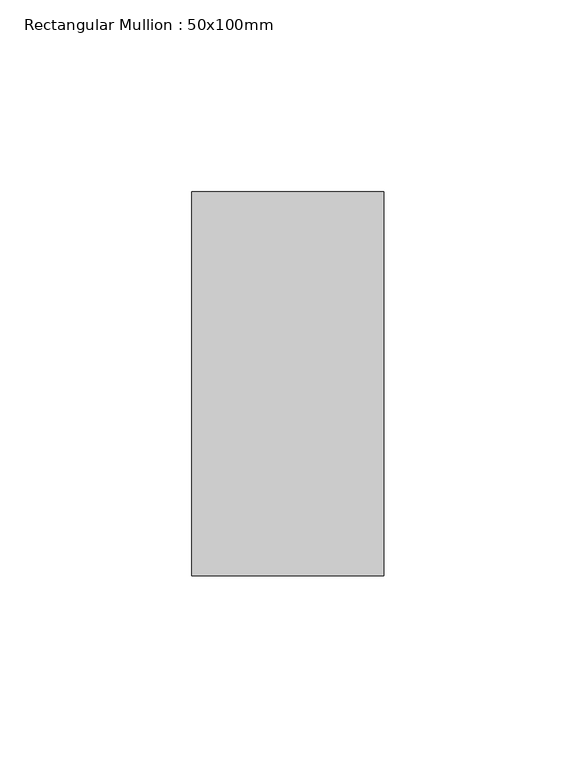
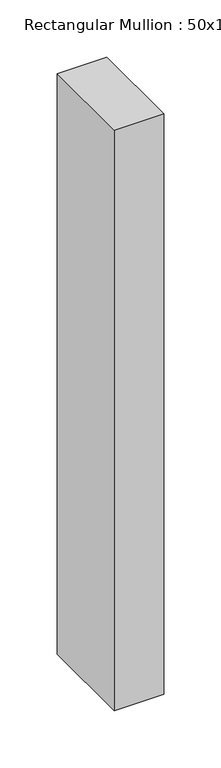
"""IFC4 building model written with IfcOpenShell, lengths in millimetres: member geometry, Rectangular Mullion : 50x100mm."""

import ifcopenshell
import ifcopenshell.guid

model = None  # the IFC model being written
_history = None  # IfcOwnerHistory: only IFC2X3 demands one
_inside = {}  # id of a spatial element -> (the spatial element, [elements in it])
_under = {}  # id of a project, library or spatial element -> (it, [spatial elements below it])
_declared = {}  # id of a project -> (the project, [libraries it declares])
_typed = {}  # id of a type object -> (the type object, [elements of that type])
_made_of = {}  # id of a material, layer set ... -> (it, [elements and type objects made of it])


def new_model(schema):
    """Start an empty IFC model of exactly this schema.

    Asked for "IFC4X3", IfcOpenShell would pick the latest addendum, in which some entities
    have other attributes; the version numbers below select the first issue.
    IFC2X3 requires an IfcOwnerHistory on every rooted entity: one is made here for all.
    """
    global model, _history
    if schema == "IFC4X3":
        model = ifcopenshell.file(schema_version=(4, 3, 0, 0))
    else:
        model = ifcopenshell.file(schema=schema)
    _inside.clear()
    _under.clear()
    _declared.clear()
    _typed.clear()
    _made_of.clear()
    _history = None
    if model.schema == "IFC2X3":
        org = make("IfcOrganization", Name="unknown")
        user = make(
            "IfcPersonAndOrganization",
            ThePerson=make("IfcPerson", FamilyName="unknown"),
            TheOrganization=org,
        )
        app = make(
            "IfcApplication",
            ApplicationDeveloper=org,
            Version="unknown",
            ApplicationFullName="unknown",
            ApplicationIdentifier="unknown",
        )
        _history = make(
            "IfcOwnerHistory",
            OwningUser=user,
            OwningApplication=app,
            ChangeAction="ADDED",
            CreationDate=0,
        )
    return model


def make(cls, **values):
    """One entity of the class cls with the attributes given. An attribute that is None is left unset."""
    return model.create_entity(
        cls, **{name: value for name, value in values.items() if value is not None}
    )


def rooted(cls, **values):
    """An entity with a GlobalId (a new one), such as an element, a storey or a relation."""
    return make(cls, GlobalId=ifcopenshell.guid.new(), OwnerHistory=_history, **values)


def si_unit(unit_type, name, prefix=None):
    """IfcSIUnit, for example si_unit("LENGTHUNIT", "METRE", prefix="MILLI")."""
    return make("IfcSIUnit", UnitType=unit_type, Prefix=prefix, Name=name)


def assignment(units):
    """IfcUnitAssignment: the units of a project."""
    return None if units is None else make("IfcUnitAssignment", Units=units)


def point(xyz):
    """IfcCartesianPoint."""
    return None if xyz is None else make("IfcCartesianPoint", Coordinates=xyz)


def direction(xyz):
    """IfcDirection."""
    return None if xyz is None else make("IfcDirection", DirectionRatios=xyz)


def frame(location, z_axis=None, x_axis=None):
    """IfcAxis2Placement3D, a coordinate frame: its origin and axes. An axis left out is left unset."""
    return make(
        "IfcAxis2Placement3D",
        Location=point(location),
        Axis=direction(z_axis),
        RefDirection=direction(x_axis),
    )


def origin():
    """The frame at (0, 0, 0) with its axes left unset."""
    return frame((0.0, 0.0, 0.0))


def place(relative_to, where):
    """IfcLocalPlacement: puts the frame where relative to a parent placement (None: the world)."""
    return make(
        "IfcLocalPlacement", PlacementRelTo=relative_to, RelativePlacement=where
    )


def context(
    kind, dimensions, precision=None, world=None, true_north=None, identifier=None
):
    """IfcGeometricRepresentationContext, for example the 3D "Model" context."""
    return make(
        "IfcGeometricRepresentationContext",
        ContextIdentifier=identifier,
        ContextType=kind,
        CoordinateSpaceDimension=dimensions,
        Precision=precision,
        WorldCoordinateSystem=world,
        TrueNorth=true_north,
    )


def project(units=None, contexts=None):
    """IfcProject with its units and contexts."""
    return rooted(
        "IfcProject",
        Name="project",
        RepresentationContexts=contexts,
        UnitsInContext=assignment(units),
    )


def spatial(cls, under=None, at=None, **own):
    """A site, building, storey or space (cls), placed at a placement, below another one or the project."""
    s = rooted(cls, ObjectPlacement=at, **own)
    if under is not None:
        _under.setdefault(under.id(), (under, []))[1].append(s)
    return s


def polyline(points):
    """IfcPolyline through the points."""
    return make("IfcPolyline", Points=[point(p) for p in points])


def outline(outer, holes=None, kind="AREA"):
    """IfcArbitraryClosedProfileDef: a profile drawn as a closed curve; with holes, ...WithVoids."""
    if holes is None:
        return make("IfcArbitraryClosedProfileDef", ProfileType=kind, OuterCurve=outer)
    return make(
        "IfcArbitraryProfileDefWithVoids",
        ProfileType=kind,
        OuterCurve=outer,
        InnerCurves=holes,
    )


def extrude(swept, where, along, depth):
    """IfcExtrudedAreaSolid: the profile swept, set in the frame where, extruded along a direction by depth."""
    return make(
        "IfcExtrudedAreaSolid",
        SweptArea=swept,
        Position=where,
        ExtrudedDirection=direction(along),
        Depth=depth,
    )


def shape(context_of_items, identifier, shape_type, items):
    """IfcShapeRepresentation: the items that make up one representation, for example the "Body"."""
    return make(
        "IfcShapeRepresentation",
        ContextOfItems=context_of_items,
        RepresentationIdentifier=identifier,
        RepresentationType=shape_type,
        Items=items,
    )


def source(mapping_origin, context_of_items, identifier, shape_type, items):
    """IfcRepresentationMap: a shape defined once, which mapped items show again and again."""
    return make(
        "IfcRepresentationMap",
        MappingOrigin=mapping_origin,
        MappedRepresentation=shape(context_of_items, identifier, shape_type, items),
    )


def transform(
    local_origin,
    x_axis=None,
    y_axis=None,
    z_axis=None,
    scale=None,
    scale2=None,
    scale3=None,
    uniform=True,
):
    """IfcCartesianTransformationOperator3D, or its non-uniform kind. x_axis, y_axis, z_axis: its Axis1, 2, 3."""
    if uniform:
        return make(
            "IfcCartesianTransformationOperator3D",
            Axis1=direction(x_axis),
            Axis2=direction(y_axis),
            LocalOrigin=point(local_origin),
            Scale=scale,
            Axis3=direction(z_axis),
        )
    return make(
        "IfcCartesianTransformationOperator3DnonUniform",
        Axis1=direction(x_axis),
        Axis2=direction(y_axis),
        LocalOrigin=point(local_origin),
        Scale=scale,
        Axis3=direction(z_axis),
        Scale2=scale2,
        Scale3=scale3,
    )


def mapped(mapping_source, mapping_target):
    """IfcMappedItem: shows the shape of a source again, moved by a transform."""
    return make(
        "IfcMappedItem", MappingSource=mapping_source, MappingTarget=mapping_target
    )


def made_of(thing, what):
    """Note that an element or type object is made of a material, layer set ...; save() writes the relation."""
    if what is not None:
        _made_of.setdefault(what.id(), (what, []))[1].append(thing)
    return thing


def element(
    cls,
    number,
    at=None,
    inside=None,
    cuts=None,
    type_object=None,
    material=None,
    context=None,
    identifier="Body",
    shape_type=None,
    held_by="IfcProductDefinitionShape",
    body=None,
    shapes=None,
    **own,
):
    """One element of the class cls, such as IfcWall. Its Tag is "e" and its number.

    at: its placement. inside: the storey or other place that contains it. cuts: it is an
    opening in that element (IfcRelVoidsElement). A single representation is given by context,
    identifier, shape_type and body (its items); several are given by shapes. held_by: the class
    of the entity that holds the representations. save() writes the other relations.
    """
    e = rooted(cls, Tag="e%d" % number, ObjectPlacement=at, **own)
    if body is not None:
        shapes = [shape(context, identifier, shape_type, body)]
    if shapes is not None:
        e.Representation = make(held_by, Representations=shapes)
    if inside is not None:
        _inside.setdefault(inside.id(), (inside, []))[1].append(e)
    if cuts is not None:
        rooted(
            "IfcRelVoidsElement", RelatingBuildingElement=cuts, RelatedOpeningElement=e
        )
    if type_object is not None:
        _typed.setdefault(type_object.id(), (type_object, []))[1].append(e)
    return made_of(e, material)


def aggregate(whole, parts):
    """IfcRelAggregates: a whole, such as a stair, and the parts it consists of."""
    return rooted("IfcRelAggregates", RelatingObject=whole, RelatedObjects=parts)


def save(model, path):
    """Write the relations noted so far, then the file.

    IfcRelAggregates (storeys below a building ...), IfcRelContainedInSpatialStructure (elements
    in a storey), IfcRelDefinesByType, IfcRelAssociatesMaterial and IfcRelDeclares: one each for
    every whole, place, type object, material and project.
    """
    for whole, parts in _under.values():
        aggregate(whole, parts)
    for where, things in _inside.values():
        rooted(
            "IfcRelContainedInSpatialStructure",
            RelatedElements=things,
            RelatingStructure=where,
        )
    for kind, things in _typed.values():
        rooted("IfcRelDefinesByType", RelatedObjects=things, RelatingType=kind)
    for what, things in _made_of.values():
        rooted("IfcRelAssociatesMaterial", RelatedObjects=things, RelatingMaterial=what)
    for by, libraries in _declared.values():
        rooted("IfcRelDeclares", RelatingContext=by, RelatedDefinitions=libraries)
    model.write(path)


def rectangular_mullion_50x100mm_4ff00685(model_context):
    return source(origin(), model_context, "Body", "SweptSolid", [
        extrude(outline(polyline([(25.0, 50.0), (25.0, -50.0), (-25.0, -50.0), (-25.0, 50.0), (25.0, 50.0)])), frame((0.0, 0.0, -620.0), z_axis=(0.0, 0.0, 1.0), x_axis=(1.0, 0.0, 0.0)), (0.0, 0.0, 1.0), 620.0),
    ])


if __name__ == "__main__":
    model = new_model("IFC4")
    model_context = context("Model", 3, world=origin())
    ifc_project = project(units=[si_unit("LENGTHUNIT", "METRE", prefix="MILLI")], contexts=[model_context])
    site = spatial("IfcSite", under=ifc_project)
    building = spatial("IfcBuilding", under=site)
    placement = place(None, origin())
    rectangular_mullion_50x100mm_shape = rectangular_mullion_50x100mm_4ff00685(model_context)
    element("IfcMember", 1, ObjectType="Rectangular Mullion : 50x100mm", at=placement, inside=building, context=model_context, shape_type="MappedRepresentation", body=[
        mapped(rectangular_mullion_50x100mm_shape, transform((0.0, 0.0, 0.0), x_axis=(1.0, 0.0, 0.0), y_axis=(0.0, 1.0, 0.0), z_axis=(0.0, 0.0, 1.0))),
    ])
    save(model, "model.ifc")
